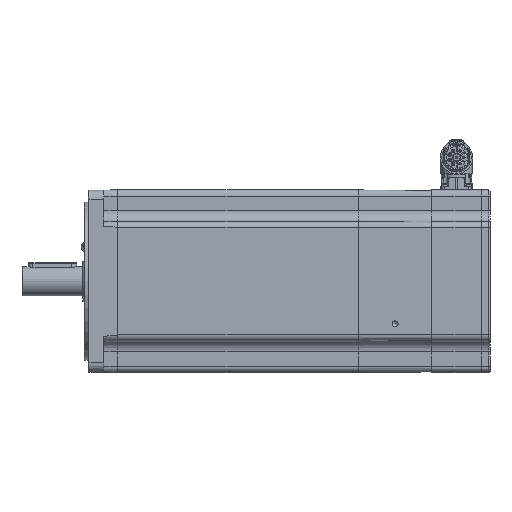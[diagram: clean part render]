
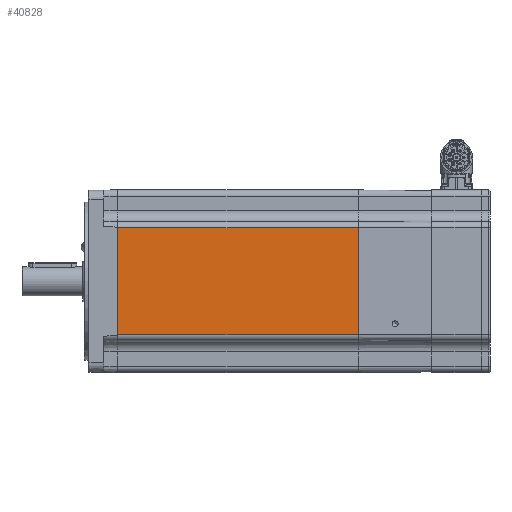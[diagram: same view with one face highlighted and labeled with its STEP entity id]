
A CAD part, left-side view. The second image highlights one B-rep face of the part: STEP entity #40828.
In plain terms, the highlighted planar face has unit normal (-1, 0, 0) as drawn and (0, -1, 0) by its records, which use the part's own axes.
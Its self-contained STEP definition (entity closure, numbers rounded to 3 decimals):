
#2406=LINE('',#65718,#4166);
#2427=LINE('',#65816,#4187);
#2430=LINE('',#65849,#4190);
#2431=LINE('',#65850,#4191);
#4166=VECTOR('',#49630,1000.);
#4187=VECTOR('',#49707,1000.);
#4190=VECTOR('',#49746,1000.);
#4191=VECTOR('',#49747,1000.);
#5018=PLANE('',#43426);
#12594=ORIENTED_EDGE('',*,*,#17643,.F.);
#12595=ORIENTED_EDGE('',*,*,#17704,.T.);
#12596=ORIENTED_EDGE('',*,*,#17691,.T.);
#12597=ORIENTED_EDGE('',*,*,#17705,.T.);
#17643=EDGE_CURVE('',#20758,#20759,#2406,.T.);
#17691=EDGE_CURVE('',#20807,#20806,#2427,.T.);
#17704=EDGE_CURVE('',#20758,#20807,#2430,.T.);
#17705=EDGE_CURVE('',#20806,#20759,#2431,.F.);
#20758=VERTEX_POINT('',#65719);
#20759=VERTEX_POINT('',#65720);
#20806=VERTEX_POINT('',#65815);
#20807=VERTEX_POINT('',#65817);
#24203=EDGE_LOOP('',(#12594,#12595,#12596,#12597));
#26517=FACE_BOUND('',#24203,.T.);
#40828=ADVANCED_FACE('',(#26517),#5018,.T.);
#43426=AXIS2_PLACEMENT_3D('',#65848,#49744,#49745);
#49630=DIRECTION('',(0.,0.,-1.));
#49707=DIRECTION('',(0.,0.,-1.));
#49744=DIRECTION('',(0.,-1.,0.));
#49745=DIRECTION('',(0.,0.,-1.));
#49746=DIRECTION('',(-1.,0.,0.));
#49747=DIRECTION('',(-1.,0.,0.));
#65718=CARTESIAN_POINT('',(-1.,-75.,75.));
#65719=CARTESIAN_POINT('',(-1.,-75.,44.));
#65720=CARTESIAN_POINT('',(-1.,-75.,-44.));
#65815=CARTESIAN_POINT('',(-199.,-75.,-44.));
#65816=CARTESIAN_POINT('',(-199.,-75.,75.));
#65817=CARTESIAN_POINT('',(-199.,-75.,44.));
#65848=CARTESIAN_POINT('',(-300.,-75.,75.));
#65849=CARTESIAN_POINT('',(-300.,-75.,44.));
#65850=CARTESIAN_POINT('',(0.,-75.,-44.));
